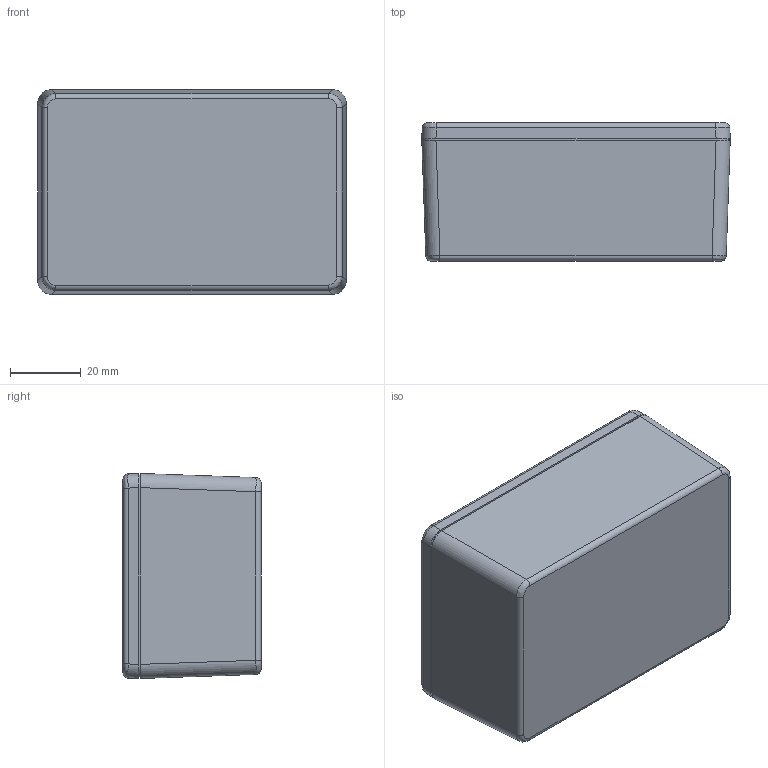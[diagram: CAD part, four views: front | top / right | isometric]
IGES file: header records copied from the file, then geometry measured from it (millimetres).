
Global section: file name: 1591XXL.iam; native system: Autodesk Inventor 2016; preprocessor: unknown; author: coop; date: 20151221.094605; units: millimetre
Bounding box: 87.08 x 39 x 57.88 mm (x, y, z)
Volume: 43932.5 mm3; surface area: 49268.6 mm2
Topology: 10 solids, 10 shells, 917 faces, 2444 edges, 1596 vertices
Faces by surface type: bspline 396, cylinder 216, plane 197, revolution 80, cone 28
Full cylindrical faces by diameter (mm): 2.91 x4, 3.81 x12, 3.912 x4, 5.5 x4
